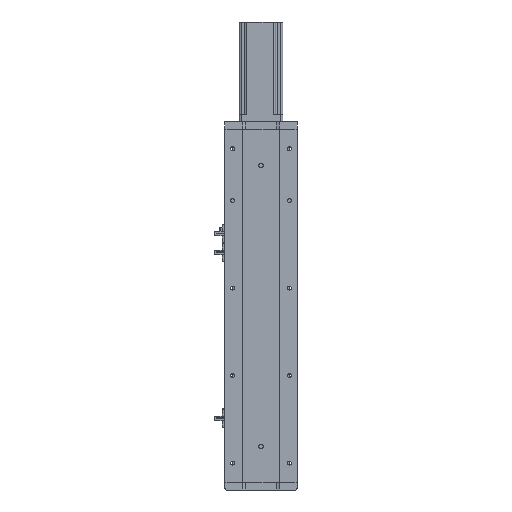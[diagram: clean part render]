
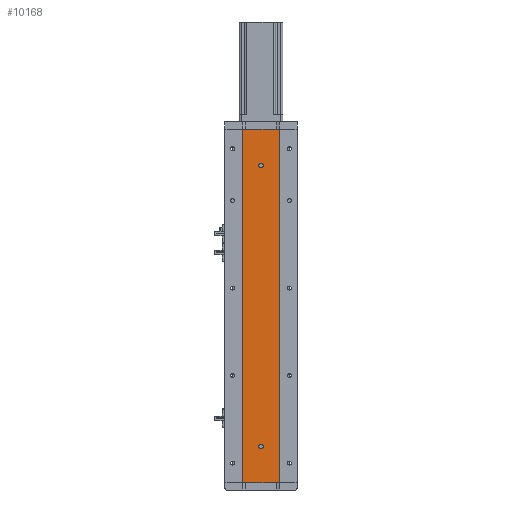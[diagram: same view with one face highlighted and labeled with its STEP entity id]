
A CAD part, left-side view. The second image highlights one B-rep face of the part: STEP entity #10168.
In plain terms, the highlighted planar face has unit normal (-1, 0, 0).
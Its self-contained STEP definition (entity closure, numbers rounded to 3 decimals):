
#35 = EDGE_CURVE ( 'NONE', #24608, #16008, #13629, .T. ) ;
#291 = EDGE_CURVE ( 'NONE', #24608, #20951, #13587, .T. ) ;
#848 = DIRECTION ( 'NONE',  ( 0., -1., 0. ) ) ;
#1036 = VERTEX_POINT ( 'NONE', #20211 ) ;
#1269 = CARTESIAN_POINT ( 'NONE',  ( -18.926, 24.785, 485. ) ) ;
#1552 = DIRECTION ( 'NONE',  ( 0., 0., -1. ) ) ;
#1692 = AXIS2_PLACEMENT_3D ( 'NONE', #8643, #28083, #11386 ) ;
#2742 = ORIENTED_EDGE ( 'NONE', *, *, #18117, .F. ) ;
#2936 = DIRECTION ( 'NONE',  ( 0., 0., -1. ) ) ;
#3104 = EDGE_CURVE ( 'NONE', #20951, #16275, #21806, .T. ) ;
#4471 = AXIS2_PLACEMENT_3D ( 'NONE', #10126, #29584, #12921 ) ;
#4540 = ORIENTED_EDGE ( 'NONE', *, *, #35, .T. ) ;
#5621 = AXIS2_PLACEMENT_3D ( 'NONE', #29477, #12795, #32223 ) ;
#6321 = CARTESIAN_POINT ( 'NONE',  ( -18.926, 0., 432. ) ) ;
#6447 = CARTESIAN_POINT ( 'NONE',  ( -18.926, 0., 50. ) ) ;
#7396 = EDGE_LOOP ( 'NONE', ( #22765, #35349, #9293, #4540 ) ) ;
#7763 = EDGE_CURVE ( 'NONE', #16008, #16275, #26799, .T. ) ;
#7794 = CARTESIAN_POINT ( 'NONE',  ( -18.926, 24.785, 0. ) ) ;
#8172 = CARTESIAN_POINT ( 'NONE',  ( -18.926, 0., 47. ) ) ;
#8522 = PLANE ( 'NONE',  #1692 ) ;
#8609 = CARTESIAN_POINT ( 'NONE',  ( -18.926, -24.785, 0. ) ) ;
#8643 = CARTESIAN_POINT ( 'NONE',  ( -18.926, 24.785, 485. ) ) ;
#8657 = CARTESIAN_POINT ( 'NONE',  ( -18.926, 0., 435. ) ) ;
#9143 = EDGE_CURVE ( 'NONE', #20901, #20851, #26584, .T. ) ;
#9190 = DIRECTION ( 'NONE',  ( 0., 0., 1. ) ) ;
#9293 = ORIENTED_EDGE ( 'NONE', *, *, #291, .F. ) ;
#10126 = CARTESIAN_POINT ( 'NONE',  ( -18.926, 0., 50. ) ) ;
#10168 = ADVANCED_FACE ( 'NONE', ( #17910, #11401, #10533 ), #8522, .F. ) ;
#10533 = FACE_OUTER_BOUND ( 'NONE', #7396, .T. ) ;
#11165 = EDGE_CURVE ( 'NONE', #20644, #1036, #35709, .T. ) ;
#11386 = DIRECTION ( 'NONE',  ( 0., 0., -1. ) ) ;
#11398 = DIRECTION ( 'NONE',  ( 0., 0., 1. ) ) ;
#11401 = FACE_BOUND ( 'NONE', #19507, .T. ) ;
#12331 = CARTESIAN_POINT ( 'NONE',  ( -18.926, 0., 438. ) ) ;
#12775 = VECTOR ( 'NONE', #1552, 1000. ) ;
#12795 = DIRECTION ( 'NONE',  ( -1., 0., 0. ) ) ;
#12921 = DIRECTION ( 'NONE',  ( 0., 0., 1. ) ) ;
#12987 = CIRCLE ( 'NONE', #24164, 3. ) ;
#13587 = LINE ( 'NONE', #25389, #21015 ) ;
#13629 = LINE ( 'NONE', #1269, #12775 ) ;
#14379 = VECTOR ( 'NONE', #2936, 1000. ) ;
#15260 = CARTESIAN_POINT ( 'NONE',  ( -18.926, -24.785, 485. ) ) ;
#16008 = VERTEX_POINT ( 'NONE', #7794 ) ;
#16275 = VERTEX_POINT ( 'NONE', #8609 ) ;
#17910 = FACE_BOUND ( 'NONE', #29205, .T. ) ;
#18117 = EDGE_CURVE ( 'NONE', #20851, #20901, #12987, .T. ) ;
#18529 = CIRCLE ( 'NONE', #32530, 3. ) ;
#18888 = EDGE_CURVE ( 'NONE', #1036, #20644, #18529, .T. ) ;
#19507 = EDGE_LOOP ( 'NONE', ( #33580, #2742 ) ) ;
#20211 = CARTESIAN_POINT ( 'NONE',  ( -18.926, 0., 53. ) ) ;
#20259 = CARTESIAN_POINT ( 'NONE',  ( -18.926, 24.785, 0. ) ) ;
#20510 = DIRECTION ( 'NONE',  ( 0., -1., 0. ) ) ;
#20644 = VERTEX_POINT ( 'NONE', #8172 ) ;
#20851 = VERTEX_POINT ( 'NONE', #6321 ) ;
#20901 = VERTEX_POINT ( 'NONE', #12331 ) ;
#20947 = ORIENTED_EDGE ( 'NONE', *, *, #11165, .F. ) ;
#20951 = VERTEX_POINT ( 'NONE', #15260 ) ;
#21015 = VECTOR ( 'NONE', #20510, 1000. ) ;
#21728 = CARTESIAN_POINT ( 'NONE',  ( -18.926, 24.785, 485. ) ) ;
#21806 = LINE ( 'NONE', #27744, #14379 ) ;
#22253 = ORIENTED_EDGE ( 'NONE', *, *, #18888, .F. ) ;
#22765 = ORIENTED_EDGE ( 'NONE', *, *, #7763, .T. ) ;
#24164 = AXIS2_PLACEMENT_3D ( 'NONE', #8657, #28101, #11398 ) ;
#24608 = VERTEX_POINT ( 'NONE', #21728 ) ;
#25389 = CARTESIAN_POINT ( 'NONE',  ( -18.926, 24.785, 485. ) ) ;
#25883 = DIRECTION ( 'NONE',  ( -1., 0., 0. ) ) ;
#26584 = CIRCLE ( 'NONE', #5621, 3. ) ;
#26799 = LINE ( 'NONE', #20259, #33271 ) ;
#27744 = CARTESIAN_POINT ( 'NONE',  ( -18.926, -24.785, 485. ) ) ;
#28083 = DIRECTION ( 'NONE',  ( 1., 0., 0. ) ) ;
#28101 = DIRECTION ( 'NONE',  ( -1., 0., 0. ) ) ;
#29205 = EDGE_LOOP ( 'NONE', ( #22253, #20947 ) ) ;
#29477 = CARTESIAN_POINT ( 'NONE',  ( -18.926, 0., 435. ) ) ;
#29584 = DIRECTION ( 'NONE',  ( -1., 0., 0. ) ) ;
#32223 = DIRECTION ( 'NONE',  ( 0., 0., 1. ) ) ;
#32530 = AXIS2_PLACEMENT_3D ( 'NONE', #6447, #25883, #9190 ) ;
#33271 = VECTOR ( 'NONE', #848, 1000. ) ;
#33580 = ORIENTED_EDGE ( 'NONE', *, *, #9143, .F. ) ;
#35349 = ORIENTED_EDGE ( 'NONE', *, *, #3104, .F. ) ;
#35709 = CIRCLE ( 'NONE', #4471, 3. ) ;
